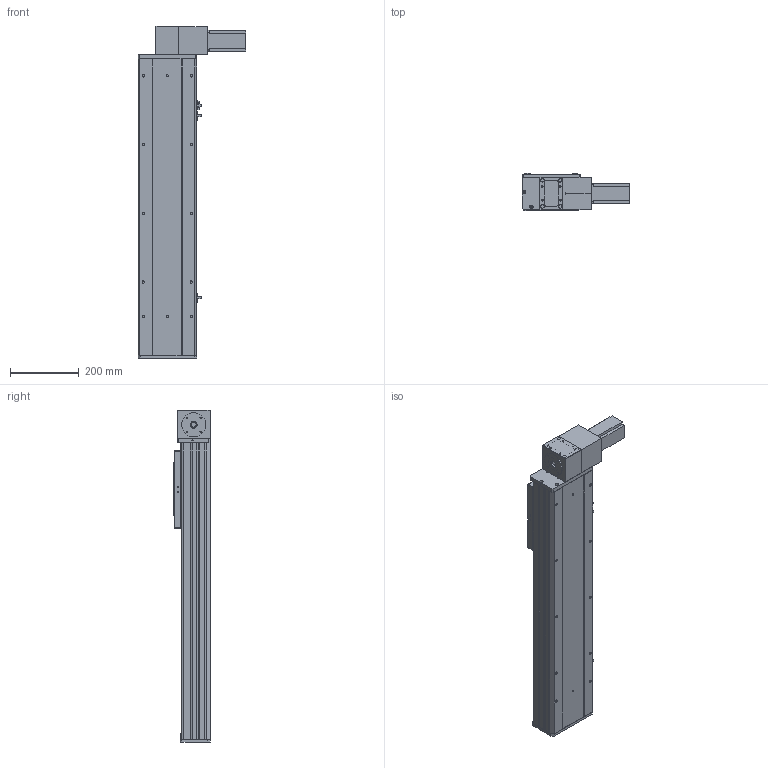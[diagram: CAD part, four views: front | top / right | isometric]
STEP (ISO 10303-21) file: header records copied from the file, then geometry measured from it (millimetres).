
FILE_DESCRIPTION (( 'STEP AP203' ), '1' );
FILE_NAME ('Y170CB-D105-S550-BD-P400W.STEP', '2020-02-20T08:20:18', ( '微软用户' ), ( '微软中国' ), 'SwSTEP 2.0', 'SolidWorks 2017', '' );
FILE_SCHEMA (( 'CONFIG_CONTROL_DESIGN' ));
Length unit declared in the file: millimetre
Products named in the file (16): Y1埴倛裔; 70CB-耜裔啣-; 70B喘謫眊----; 70C--詩湍揤踡え-; 0B薊粣ん眊-400W--; 70CB--耜裔; Y170CB-D105-S550-BD-P400W; 70C-雄赽釱-奻-; 0C--雄赽釱俋欶-170; B-源倛裔啣; 70CB-詩湍--; san松下电机400不带刹车----; Y100-135俋离換覜ん--; 70CB-掛极-; Y170CB-陔俋离換覜結え---; --70CB --喘謫眊楊擘啣-
Assembly tree (19 placements, depth 2):
  Y170CB-D105-S550-BD-P400W
    B-源倛裔啣
    san松下电机400不带刹车----
    70CB-掛极-
    --70CB --喘謫眊楊擘啣-
    70CB-耜裔啣-  x2
    70C--詩湍揤踡え-  x2
    70CB--耜裔
    70C-雄赽釱-奻-
    0C--雄赽釱俋欶-170
    70CB-詩湍--
    Y100-135俋离換覜ん--  x3
    Y170CB-陔俋离換覜結え---
    Y1埴倛裔
    70B喘謫眊----
    0B薊粣ん眊-400W--
Bounding box: 313.5 x 107 x 966 mm (x, y, z)
Volume: 5054755.4 mm3; surface area: 1670829.6 mm2
Topology: 19 solids, 19 shells, 904 faces, 2378 edges, 1576 vertices
Faces by surface type: cylinder 458, plane 422, cone 24
Entity records: 28135 total; most frequent: CARTESIAN_POINT 5206, DIRECTION 4575, ORIENTED_EDGE 4238, EDGE_CURVE 2119, AXIS2_PLACEMENT_3D 1681, VERTEX_POINT 1406, LINE 1213, VECTOR 1213
